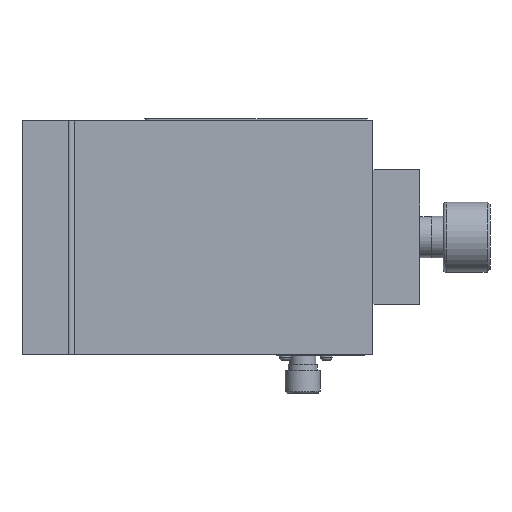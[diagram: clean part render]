
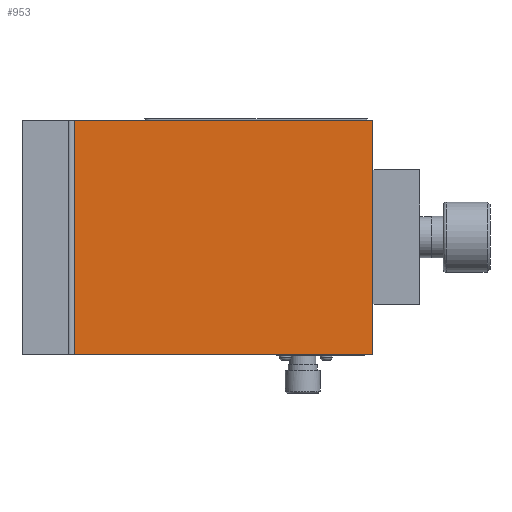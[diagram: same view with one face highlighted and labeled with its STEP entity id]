
A CAD part, front view. The second image highlights one B-rep face of the part: STEP entity #953.
In plain terms, the highlighted planar face has unit normal (0, -1, 0).
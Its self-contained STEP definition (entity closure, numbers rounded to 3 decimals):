
#891 = ORIENTED_EDGE ( 'NONE', *, *, #895, .T. ) ;
#892 = VERTEX_POINT ( 'NONE', #5345 ) ;
#893 = EDGE_CURVE ( 'NONE', #20737, #892, #5498, .T. ) ;
#894 = VERTEX_POINT ( 'NONE', #5494 ) ;
#895 = EDGE_CURVE ( 'NONE', #894, #892, #5551, .T. ) ;
#896 = ORIENTED_EDGE ( 'NONE', *, *, #20735, .F. ) ;
#897 = EDGE_CURVE ( 'NONE', #894, #20732, #5552, .T. ) ;
#912 = ORIENTED_EDGE ( 'NONE', *, *, #897, .F. ) ;
#930 = EDGE_LOOP ( 'NONE', ( #912, #891, #948, #896 ) ) ;
#948 = ORIENTED_EDGE ( 'NONE', *, *, #893, .F. ) ;
#953 = ADVANCED_FACE ( 'NONE', ( #5356 ), #5355, .F. ) ;
#5345 = CARTESIAN_POINT ( 'NONE',  ( -31., -15.5, -20. ) ) ;
#5350 = DIRECTION ( 'NONE',  ( 0., 0., 1. ) ) ;
#5351 = DIRECTION ( 'NONE',  ( 0., 1., 0. ) ) ;
#5352 = CARTESIAN_POINT ( 'NONE',  ( -32., -15.5, 82.097 ) ) ;
#5353 = AXIS2_PLACEMENT_3D ( 'NONE', #5352, #5351, #5350 ) ;
#5355 = PLANE ( 'NONE',  #5353 ) ;
#5356 = FACE_OUTER_BOUND ( 'NONE', #930, .T. ) ;
#5367 = DIRECTION ( 'NONE',  ( 1., 0., 0. ) ) ;
#5368 = VECTOR ( 'NONE', #5367, 1000. ) ;
#5369 = CARTESIAN_POINT ( 'NONE',  ( -32., -15.5, 20. ) ) ;
#5373 = DIRECTION ( 'NONE',  ( 0., 0., -1. ) ) ;
#5374 = VECTOR ( 'NONE', #5373, 1000. ) ;
#5494 = CARTESIAN_POINT ( 'NONE',  ( -31., -15.5, 20. ) ) ;
#5495 = DIRECTION ( 'NONE',  ( -1., 0., 0. ) ) ;
#5496 = VECTOR ( 'NONE', #5495, 1000. ) ;
#5497 = CARTESIAN_POINT ( 'NONE',  ( -32., -15.5, -20. ) ) ;
#5498 = LINE ( 'NONE', #5497, #5496 ) ;
#5550 = CARTESIAN_POINT ( 'NONE',  ( -31., -15.5, -20. ) ) ;
#5551 = LINE ( 'NONE', #5550, #5374 ) ;
#5552 = LINE ( 'NONE', #5369, #5368 ) ;
#9879 = CARTESIAN_POINT ( 'NONE',  ( 20., -15.5, -20. ) ) ;
#9880 = DIRECTION ( 'NONE',  ( 0., 0., -1. ) ) ;
#9881 = VECTOR ( 'NONE', #9880, 1000. ) ;
#9882 = CARTESIAN_POINT ( 'NONE',  ( 20., -15.5, 82.097 ) ) ;
#9883 = LINE ( 'NONE', #9882, #9881 ) ;
#9884 = CARTESIAN_POINT ( 'NONE',  ( 20., -15.5, 20. ) ) ;
#20732 = VERTEX_POINT ( 'NONE', #9884 ) ;
#20735 = EDGE_CURVE ( 'NONE', #20732, #20737, #9883, .T. ) ;
#20737 = VERTEX_POINT ( 'NONE', #9879 ) ;
